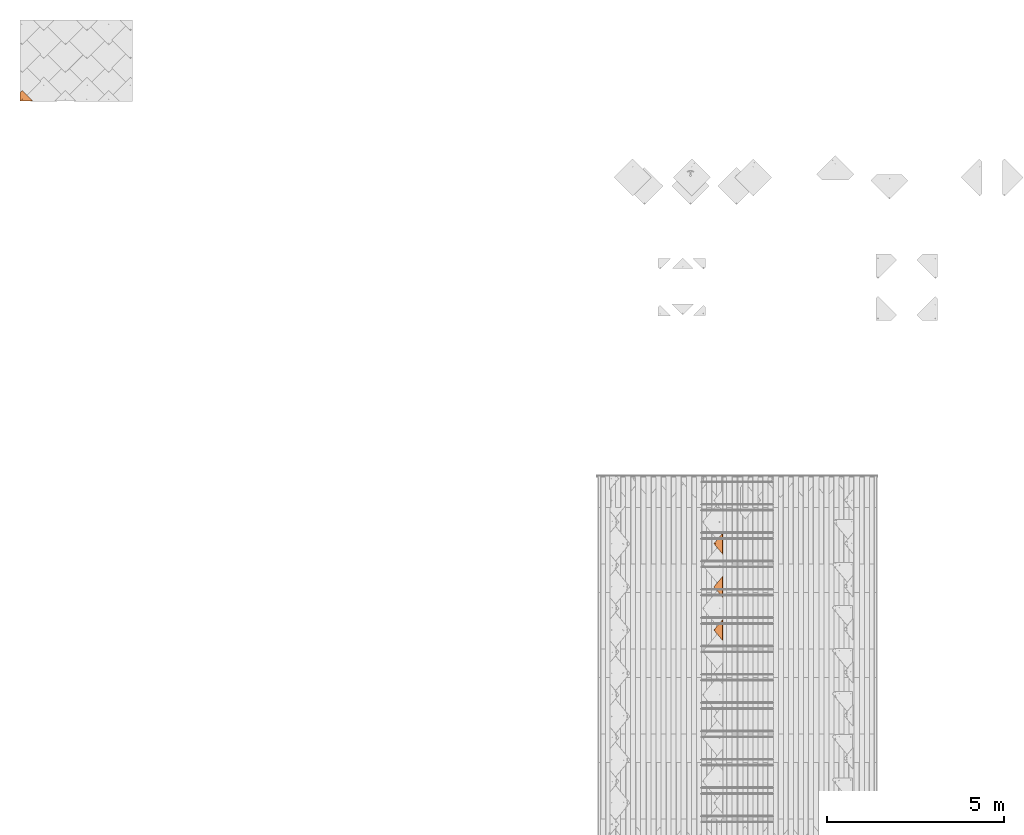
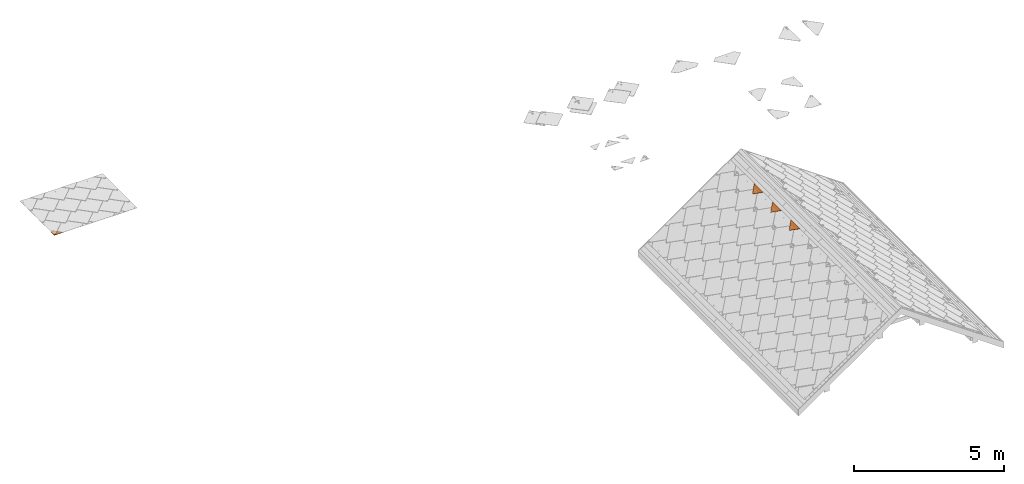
# One storey, part 102 of 133: 4 proxies.
"""IFC2X3 building model written with IfcOpenShell, lengths in millimetres."""

from ifc_helpers import new_model, entity, si_unit, converted_unit, derived_unit, direction, frame, origin, place, context, subcontext, project, spatial, faceted_brep, source, transform, mapped, material, material_list, type_object, type_shapes, element, save


model = new_model("IFC2X3")

# Units and contexts
model_context = context("Model", 3, precision=0.01, world=origin(), true_north=direction((6.12303176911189e-17, 1.0)))
body_context = subcontext(model_context, "Body", "Model", "MODEL_VIEW")
ifc_project = project(units=[si_unit("LENGTHUNIT", "METRE", prefix="MILLI"), si_unit("AREAUNIT", "SQUARE_METRE"), si_unit("VOLUMEUNIT", "CUBIC_METRE"), converted_unit("PLANEANGLEUNIT", "DEGREE", entity("IfcRatioMeasure", 0.0174532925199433), si_unit("PLANEANGLEUNIT", "RADIAN"), dimensions=[0, 0, 0, 0, 0, 0, 0]), si_unit("MASSUNIT", "GRAM", prefix="KILO"), derived_unit("MASSDENSITYUNIT", [(si_unit("MASSUNIT", "GRAM", prefix="KILO"), 1), (si_unit("LENGTHUNIT", "METRE"), -3)]), si_unit("TIMEUNIT", "SECOND"), si_unit("FREQUENCYUNIT", "HERTZ"), si_unit("THERMODYNAMICTEMPERATUREUNIT", "DEGREE_CELSIUS"), derived_unit("THERMALTRANSMITTANCEUNIT", [(si_unit("MASSUNIT", "GRAM", prefix="KILO"), 1), (si_unit("THERMODYNAMICTEMPERATUREUNIT", "KELVIN"), -1), (si_unit("TIMEUNIT", "SECOND"), -3)]), derived_unit("VOLUMETRICFLOWRATEUNIT", [(si_unit("LENGTHUNIT", "METRE"), 3), (si_unit("TIMEUNIT", "SECOND"), -1)]), si_unit("ELECTRICCURRENTUNIT", "AMPERE"), si_unit("ELECTRICVOLTAGEUNIT", "VOLT"), si_unit("POWERUNIT", "WATT"), si_unit("FORCEUNIT", "NEWTON", prefix="KILO"), si_unit("ILLUMINANCEUNIT", "LUX"), si_unit("LUMINOUSFLUXUNIT", "LUMEN"), si_unit("LUMINOUSINTENSITYUNIT", "CANDELA"), derived_unit("USERDEFINED", [(si_unit("MASSUNIT", "GRAM", prefix="KILO"), -1), (si_unit("LENGTHUNIT", "METRE"), -2), (si_unit("TIMEUNIT", "SECOND"), 3), (si_unit("LUMINOUSFLUXUNIT", "LUMEN"), 1)]), derived_unit("LINEARVELOCITYUNIT", [(si_unit("LENGTHUNIT", "METRE"), 1), (si_unit("TIMEUNIT", "SECOND"), -1)]), si_unit("PRESSUREUNIT", "PASCAL"), derived_unit("USERDEFINED", [(si_unit("LENGTHUNIT", "METRE"), -2), (si_unit("MASSUNIT", "GRAM", prefix="KILO"), 1), (si_unit("TIMEUNIT", "SECOND"), -2)])], contexts=[model_context])

# Site, building, storey
site_placement = place(None, origin())
site = spatial("IfcSite", under=ifc_project, at=site_placement, Name="Default", CompositionType="ELEMENT")
building_placement = place(site_placement, origin())
building = spatial("IfcBuilding", under=site, at=building_placement, CompositionType="ELEMENT")
storey_placement = place(building_placement, origin())
storey = spatial("IfcBuildingStorey", under=building, at=storey_placement, Name="Level 1", CompositionType="ELEMENT", Elevation=0.0)

# Proxies
ifc_material_1 = material(Name="Rubber - Sunstyle - Black")
ifc_material_2 = material(Name="Glass - Sunstyle - Tainted Black")
ifc_material_list_1 = material_list([ifc_material_1, ifc_material_2])
ifc_material_list_2 = material_list([ifc_material_1, ifc_material_2])
building_element_proxy_type_1 = type_object("IfcBuildingElementProxyType", Name="Shingle Top Small - Black", PredefinedType="NOTDEFINED", material=ifc_material_list_2)
shared_shape_1 = source(origin(), body_context, "Body", "Brep", [
    faceted_brep([(300.675008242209, 41.77298489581, 1.59527223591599), (294.900805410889, 38.4397147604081, 1.65109621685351), (294.900805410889, 38.8080238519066, 23.6429655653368), (300.675008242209, 42.1412939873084, 23.5871415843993), (294.900805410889, 31.7731744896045, 1.76274417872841), (294.900805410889, 32.1414835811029, 23.7546135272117), (300.675008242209, 28.4399043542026, 1.81856815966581), (300.675008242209, 28.808213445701, 23.8104375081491), (306.44921107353, 31.7731744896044, 1.7627441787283), (306.44921107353, 32.1414835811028, 23.7546135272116), (306.44921107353, 38.4397147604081, 1.65109621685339), (306.44921107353, 38.8080238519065, 23.6429655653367), (292.071304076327, 26.8722558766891, 23.8428599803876), (300.675008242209, 23.3089846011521, 23.9025359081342), (288.507533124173, 35.4747537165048, 23.6987895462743), (292.071304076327, 44.0772515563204, 23.5547191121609), (300.675008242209, 47.6405228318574, 23.4950431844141), (309.278712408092, 44.0772515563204, 23.5547191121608), (312.842483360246, 35.4747537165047, 23.6987895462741), (309.278712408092, 26.872255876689, 23.8428599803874), (289.350763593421, 37.7698308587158, 26.0116314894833), (290.91853368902, 35.5457686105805, 27.9391141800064), (300.67500824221, 42.8588438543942, 28.5718145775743), (300.67500824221, 44.0993414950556, 27.9914679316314), (300.675008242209, 46.2568923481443, 26.98209285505), (300.675008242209, 23.8650286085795, 25.1775938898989), (300.675008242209, 24.8086052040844, 27.3412982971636), (300.675008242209, 28.2579809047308, 28.8163427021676), (300.675008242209, 47.1274867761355, 24.7880055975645), (294.35176254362, 31.9081966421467, 28.7552106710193), (294.35176254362, 39.2086281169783, 28.6329466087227), (311.999252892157, 33.2584106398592, 26.0871865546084), (310.523888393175, 34.4713621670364, 27.8602460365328), (306.998253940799, 39.2086281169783, 28.6329466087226), (306.998253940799, 31.9081966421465, 28.7552106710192), (294.35176254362, 32.0422251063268, 36.7580988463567), (300.67500824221, 28.3920093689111, 36.8192308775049), (300.67500824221, 35.6924408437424, 36.6969668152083), (294.35176254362, 39.342656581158, 36.6358347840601), (306.998253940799, 32.0422251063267, 36.7580988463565), (306.998253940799, 39.342656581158, 36.6358347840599), (300.67500824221, 42.9928723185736, 36.5747027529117), (300.675008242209, 35.1064446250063, 1.7069201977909)], [[[0, 1, 2, 3]], [[1, 4, 5, 2]], [[4, 6, 7, 5]], [[6, 8, 9, 7]], [[8, 10, 11, 9]], [[10, 0, 3, 11]], [[12, 7, 13]], [[7, 12, 5]], [[14, 5, 12]], [[5, 14, 2]], [[15, 2, 14]], [[3, 2, 15]], [[15, 16, 3]], [[16, 17, 3]], [[11, 3, 17]], [[11, 17, 18]], [[9, 11, 18]], [[18, 19, 9]], [[7, 9, 19]], [[19, 13, 7]], [[20, 14, 12]], [[21, 22, 23, 24]], [[24, 20, 21]], [[25, 20, 12]], [[26, 27, 21]], [[15, 14, 20]], [[12, 13, 25]], [[20, 28, 15]], [[28, 20, 24]], [[21, 27, 29]], [[21, 29, 30]], [[26, 21, 20]], [[20, 25, 26]], [[15, 28, 16]], [[21, 30, 22]], [[31, 18, 17]], [[28, 31, 17]], [[32, 27, 26]], [[26, 31, 32]], [[26, 25, 31]], [[25, 19, 31]], [[17, 16, 28]], [[31, 19, 18]], [[24, 31, 28]], [[33, 34, 32]], [[23, 22, 33]], [[24, 32, 31]], [[27, 32, 34]], [[32, 23, 33]], [[19, 25, 13]], [[32, 24, 23]], [[35, 36, 37]], [[37, 38, 35]], [[36, 39, 37]], [[40, 37, 39]], [[37, 40, 41]], [[37, 41, 38]], [[42, 6, 4]], [[4, 1, 42]], [[1, 0, 42]], [[42, 8, 6]], [[0, 10, 42]], [[8, 42, 10]], [[22, 30, 38, 41]], [[30, 29, 35, 38]], [[29, 27, 36, 35]], [[27, 34, 39, 36]], [[34, 33, 40, 39]], [[33, 22, 41, 40]]]),
    faceted_brep([(601.350661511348, 300.716609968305, 19.1616152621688), (307.603211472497, 39.4797476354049, 23.5366826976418), (308.402414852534, 37.5505705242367, 23.5689916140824), (306.331862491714, 41.1363695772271, 23.5089384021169), (308.675008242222, 35.4803084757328, 23.6036633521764), (304.675008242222, 42.4075403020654, 23.4876494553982), (302.745560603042, 43.206631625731, 23.4742666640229), (300.675008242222, 43.4791867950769, 23.4697020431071), (308.402414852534, 33.4100464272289, 23.6383350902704), (300.675330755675, 0.125588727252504, 24.1957669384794), (0.0, 300.716609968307, 19.1616152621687), (298.604455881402, 43.2066316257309, 23.4742666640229), (296.675008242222, 42.4075403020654, 23.4876494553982), (295.018153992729, 41.136369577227, 23.5089384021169), (293.746805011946, 39.4797476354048, 23.5366826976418), (292.947601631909, 37.5505705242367, 23.5689916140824), (292.675008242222, 35.4803084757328, 23.6036633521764), (292.947601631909, 33.4100464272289, 23.6383350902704), (293.746805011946, 31.4808693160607, 23.6706440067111), (307.603211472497, 31.4808693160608, 23.6706440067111), (306.331862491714, 29.8242473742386, 23.698388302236), (304.675008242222, 28.5530766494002, 23.7196772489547), (302.745560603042, 27.7539853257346, 23.73306004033), (300.675008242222, 27.4814301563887, 23.7376246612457), (298.604455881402, 27.7539853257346, 23.73306004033), (296.675008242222, 28.5530766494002, 23.7196772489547), (295.018153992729, 29.8242473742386, 23.698388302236), (0.0, 300.591021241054, 11.6626668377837), (295.018153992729, 41.0107808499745, 16.0099899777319), (293.746805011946, 39.3541589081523, 16.0377342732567), (296.675008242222, 42.2819515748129, 15.9887010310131), (292.947601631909, 37.4249817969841, 16.0700431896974), (298.604455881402, 43.0810428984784, 15.9753182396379), (300.675008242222, 43.3535980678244, 15.9707536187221), (601.350661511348, 300.591021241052, 11.6626668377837), (292.675008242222, 35.3547197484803, 16.1047149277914), (292.947601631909, 33.2844576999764, 16.1393866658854), (300.675330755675, 0.0, 16.6968185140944), (302.745560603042, 43.0810428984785, 15.9753182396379), (304.675008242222, 42.2819515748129, 15.9887010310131), (306.331862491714, 41.0107808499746, 16.0099899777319), (307.603211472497, 39.3541589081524, 16.0377342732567), (308.402414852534, 37.4249817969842, 16.0700431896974), (308.675008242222, 35.3547197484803, 16.1047149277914), (308.402414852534, 33.2844576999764, 16.1393866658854), (307.603211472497, 31.3552805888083, 16.171695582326), (293.746805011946, 31.3552805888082, 16.171695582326), (295.018153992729, 29.6986586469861, 16.1994398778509), (296.675008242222, 28.4274879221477, 16.2207288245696), (298.604455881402, 27.6283965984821, 16.2341116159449), (300.675008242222, 27.3558414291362, 16.2386762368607), (302.745560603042, 27.6283965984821, 16.2341116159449), (304.675008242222, 28.4274879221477, 16.2207288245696), (306.331862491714, 29.6986586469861, 16.1994398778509)], [[[0, 1, 2]], [[1, 0, 3]], [[0, 2, 4]], [[5, 3, 0]], [[6, 5, 0]], [[0, 7, 6]], [[4, 8, 0]], [[8, 9, 0]], [[7, 0, 10]], [[11, 7, 10]], [[12, 11, 10]], [[10, 13, 12]], [[13, 10, 14]], [[15, 14, 10]], [[10, 16, 15]], [[17, 16, 10]], [[10, 9, 17]], [[17, 9, 18]], [[8, 19, 9]], [[20, 9, 19]], [[20, 21, 9]], [[22, 9, 21]], [[23, 9, 22]], [[23, 24, 9]], [[24, 25, 9]], [[25, 26, 9]], [[9, 26, 18]], [[27, 28, 29]], [[28, 27, 30]], [[27, 29, 31]], [[32, 30, 27]], [[33, 32, 27]], [[27, 34, 33]], [[31, 35, 27]], [[35, 36, 27]], [[27, 36, 37]], [[38, 33, 34]], [[39, 38, 34]], [[40, 39, 34]], [[34, 41, 40]], [[41, 34, 42]], [[43, 42, 34]], [[34, 44, 43]], [[37, 44, 34]], [[45, 44, 37]], [[37, 36, 46]], [[37, 46, 47]], [[47, 48, 37]], [[48, 49, 37]], [[50, 37, 49]], [[50, 51, 37]], [[37, 51, 52]], [[52, 53, 37]], [[45, 37, 53]], [[9, 10, 27, 37]], [[0, 9, 37, 34]], [[16, 35, 31, 15]], [[15, 31, 29, 14]], [[12, 13, 28, 30]], [[28, 13, 14, 29]], [[11, 12, 30, 32]], [[11, 32, 33, 7]], [[7, 33, 38, 6]], [[6, 38, 39, 5]], [[1, 3, 40, 41]], [[40, 3, 5, 39]], [[2, 1, 41, 42]], [[2, 42, 43, 4]], [[4, 43, 44, 8]], [[8, 44, 45, 19]], [[21, 20, 53, 52]], [[53, 20, 19, 45]], [[22, 21, 52, 51]], [[22, 51, 50, 23]], [[23, 50, 49, 24]], [[24, 49, 48, 25]], [[18, 26, 47, 46]], [[47, 26, 25, 48]], [[17, 18, 46, 36]], [[17, 36, 35, 16]], [[10, 0, 34, 27]]]),
])
type_shapes(building_element_proxy_type_1, [shared_shape_1])
proxy_1_placement = place(storey_placement, frame((558.087990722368, 2334.12586888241, 2379.24450072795), z_axis=(-0.57357643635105, 0.0, 0.819152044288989), x_axis=(0.0, -1.0, 0.0)))
element("IfcBuildingElementProxy", 1, at=proxy_1_placement, inside=storey, type_object=building_element_proxy_type_1, material=ifc_material_list_1, Name="Roofing_Panels_SunStyle_Tile_Shingle-Top-Small:Shingle Top Small - Black", ObjectType="Roofing_Panels_SunStyle_Tile_Shingle-Top-Small:Shingle Top Small - Black", context=body_context, shape_type="MappedRepresentation", body=[
    mapped(shared_shape_1, transform((0.0, 0.0, 0.0), scale=1.0)),
])
ifc_material_list_3 = material_list([ifc_material_1, ifc_material_2])
proxy_2_placement = place(storey_placement, frame((558.087990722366, 1114.12586888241, 2379.24450072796), z_axis=(-0.57357643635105, 0.0, 0.819152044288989), x_axis=(0.0, -1.0, 0.0)))
element("IfcBuildingElementProxy", 2, at=proxy_2_placement, inside=storey, type_object=building_element_proxy_type_1, material=ifc_material_list_3, Name="Roofing_Panels_SunStyle_Tile_Shingle-Top-Small:Shingle Top Small - Black", ObjectType="Roofing_Panels_SunStyle_Tile_Shingle-Top-Small:Shingle Top Small - Black", context=body_context, shape_type="MappedRepresentation", body=[
    mapped(shared_shape_1, transform((0.0, 0.0, 0.0), scale=1.0)),
])
ifc_material_list_4 = material_list([ifc_material_1, ifc_material_2])
proxy_3_placement = place(storey_placement, frame((558.087990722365, -105.87413111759, 2379.24450072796), z_axis=(-0.57357643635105, 0.0, 0.819152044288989), x_axis=(0.0, -1.0, 0.0)))
element("IfcBuildingElementProxy", 3, at=proxy_3_placement, inside=storey, type_object=building_element_proxy_type_1, material=ifc_material_list_4, Name="Roofing_Panels_SunStyle_Tile_Shingle-Top-Small:Shingle Top Small - Black", ObjectType="Roofing_Panels_SunStyle_Tile_Shingle-Top-Small:Shingle Top Small - Black", context=body_context, shape_type="MappedRepresentation", body=[
    mapped(shared_shape_1, transform((0.0, 0.0, 0.0), scale=1.0)),
])
ifc_material_list_5 = material_list([ifc_material_1, ifc_material_2])
ifc_material_list_6 = material_list([ifc_material_1, ifc_material_2])
building_element_proxy_type_2 = type_object("IfcBuildingElementProxyType", Name="Corner Bottom Small Left - Black", PredefinedType="NOTDEFINED", material=ifc_material_list_6)
shared_shape_2 = source(origin(), body_context, "Body", "Brep", [
    faceted_brep([(330.847757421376, 18.4932261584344, 12.2894055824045), (339.332443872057, 26.9779126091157, 12.1473081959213), (339.332443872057, 27.0030303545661, 13.6470978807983), (330.847757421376, 18.5183439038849, 13.7891952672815), (61.6993486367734, 287.566165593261, 7.7831033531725), (10.0799586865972, 235.961249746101, 8.64735729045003), (1.59527223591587, 244.445936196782, 8.50525990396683), (61.6993486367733, 304.533159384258, 7.49894842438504), (61.6993486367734, 304.558277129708, 8.9987381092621), (1.59527223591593, 244.471053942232, 10.0050495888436), (10.0799586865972, 235.986367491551, 10.147146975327), (61.6993486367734, 287.591283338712, 9.2828930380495)], [[[0, 1, 2, 3]], [[1, 0, 4, 5, 6, 7]], [[2, 1, 7, 8]], [[3, 2, 8, 9, 10, 11]], [[0, 3, 11, 4]], [[5, 10, 9, 6]], [[8, 7, 6, 9]], [[4, 11, 10, 5]]]),
    faceted_brep([(61.6990261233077, 46.946835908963, 21.8142807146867), (61.6990261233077, 51.4462045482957, 21.7389274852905), (53.0953219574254, 50.5101071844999, 21.7546047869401), (70.3027302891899, 50.5101071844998, 21.7546047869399), (68.3392547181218, 55.2794047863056, 21.6747309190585), (73.8665012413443, 59.1126050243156, 21.6105343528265), (68.3392547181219, 62.9458052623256, 21.5463377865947), (70.30273028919, 67.7151028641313, 21.4664639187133), (61.6990261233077, 66.7790055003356, 21.4821412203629), (61.6990261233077, 71.2783741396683, 21.4067879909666), (53.0953219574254, 67.7151028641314, 21.4664639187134), (55.0587975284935, 62.9458052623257, 21.5463377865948), (49.5315510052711, 59.1126050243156, 21.6105343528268), (55.0587975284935, 55.2794047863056, 21.6747309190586), (55.0587978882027, 62.6778824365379, 5.54858115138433), (61.6990261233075, 66.5110824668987, 5.48438458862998), (55.0587978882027, 55.0114823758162, 5.6769742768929), (61.6990261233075, 51.1782823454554, 5.74117083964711), (68.3392543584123, 55.0114823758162, 5.67697427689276), (68.3392543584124, 62.6778824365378, 5.5485811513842), (53.0953219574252, 50.2421845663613, 5.75684814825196), (61.6990261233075, 46.6789132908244, 5.81652407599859), (49.5315510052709, 58.844682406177, 5.61277771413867), (53.0953219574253, 67.4471802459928, 5.4687072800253), (61.6990261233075, 71.0104515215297, 5.4090313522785), (70.3027302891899, 67.4471802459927, 5.46870728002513), (73.8665012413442, 58.844682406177, 5.61277771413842), (70.3027302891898, 50.2421845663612, 5.75684814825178)], [[[0, 1, 2]], [[1, 0, 3]], [[3, 4, 1]], [[4, 3, 5]], [[6, 4, 5]], [[5, 7, 6]], [[7, 8, 6]], [[8, 7, 9]], [[8, 9, 10]], [[10, 11, 8]], [[12, 11, 10]], [[2, 13, 12]], [[12, 13, 11]], [[13, 2, 1]], [[8, 11, 14, 15]], [[11, 13, 16, 14]], [[13, 1, 17, 16]], [[1, 4, 18, 17]], [[4, 6, 19, 18]], [[6, 8, 15, 19]], [[20, 17, 21]], [[17, 20, 16]], [[22, 16, 20]], [[14, 16, 22]], [[23, 14, 22]], [[15, 14, 23]], [[23, 24, 15]], [[24, 25, 15]], [[19, 15, 25]], [[19, 25, 26]], [[26, 18, 19]], [[26, 27, 18]], [[17, 18, 27]], [[27, 21, 17]], [[24, 23, 10, 9]], [[10, 23, 22, 12]], [[20, 21, 0, 2]], [[20, 2, 12, 22]], [[21, 27, 3, 0]], [[3, 27, 26, 5]], [[25, 24, 9, 7]], [[25, 7, 5, 26]]]),
    faceted_brep([(1.59527223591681, 244.445936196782, 8.50525990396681), (58.5931975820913, 70.7020897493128, 11.4150370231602), (61.6990261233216, 71.1109225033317, 11.4081900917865), (55.6990261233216, 69.5034527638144, 11.4351112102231), (64.8048546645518, 70.7020897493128, 11.4150370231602), (53.213744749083, 67.596696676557, 11.4670446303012), (51.3067212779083, 65.1117637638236, 11.5086610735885), (1.5952722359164, 0.125588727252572, 12.5970178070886), (67.6990261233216, 69.5034527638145, 11.4351112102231), (61.6993486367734, 304.533159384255, 7.49894842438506), (50.1079162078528, 62.2179980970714, 11.5571244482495), (49.6990261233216, 59.1126050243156, 11.6091320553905), (50.1079162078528, 56.0072119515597, 11.6611396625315), (51.3067212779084, 53.1134462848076, 11.7096030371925), (53.2137447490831, 50.6285133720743, 11.7512194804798), (55.6990261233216, 48.7217572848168, 11.7831529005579), (58.5931975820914, 47.5231202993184, 11.8032270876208), (61.6990261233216, 47.1142875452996, 11.8100740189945), (64.8048546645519, 47.5231202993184, 11.8032270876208), (67.6990261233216, 48.7217572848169, 11.7831529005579), (366.192299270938, 0.125588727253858, 12.5970178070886), (72.0913309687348, 65.1117637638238, 11.5086610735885), (73.2901360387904, 62.2179980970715, 11.5571244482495), (73.6990261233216, 59.1126050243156, 11.6091320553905), (70.1843074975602, 50.6285133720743, 11.7512194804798), (72.0913309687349, 53.1134462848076, 11.7096030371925), (73.2901360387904, 56.0072119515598, 11.6611396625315), (70.1843074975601, 67.596696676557, 11.4670446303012), (1.5952722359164, 0.0, 5.09806938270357), (55.6990261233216, 48.5961685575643, 4.2842044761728), (58.5931975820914, 47.3975315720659, 4.30427866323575), (53.2137447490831, 50.5029246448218, 4.25227105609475), (61.6990261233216, 46.9886988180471, 4.3111255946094), (51.3067212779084, 52.9878575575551, 4.21065461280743), (50.1079162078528, 55.8816232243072, 4.16219123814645), (49.6990261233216, 58.9870162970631, 4.11018363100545), (50.1079162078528, 62.0924093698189, 4.05817602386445), (64.8048546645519, 47.3975315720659, 4.30427866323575), (67.6990261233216, 48.5961685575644, 4.2842044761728), (366.192299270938, 0.0, 5.09806938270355), (51.3067212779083, 64.9861750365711, 4.00971264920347), (1.59527223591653, 244.320347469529, 1.00631147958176), (53.213744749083, 67.4711079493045, 3.96809620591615), (55.6990261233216, 69.3778640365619, 3.93616278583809), (58.5931975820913, 70.5765010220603, 3.91608859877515), (61.6990261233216, 70.9853337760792, 3.90924166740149), (64.8048546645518, 70.5765010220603, 3.91608859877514), (67.6990261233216, 69.377864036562, 3.93616278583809), (61.6993486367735, 304.407570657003, 0.0), (72.0913309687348, 64.9861750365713, 4.00971264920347), (70.1843074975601, 67.4711079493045, 3.96809620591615), (70.1843074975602, 50.5029246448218, 4.25227105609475), (72.0913309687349, 52.9878575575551, 4.21065461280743), (73.2901360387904, 55.8816232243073, 4.16219123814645), (73.6990261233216, 58.9870162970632, 4.11018363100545), (73.2901360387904, 62.092409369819, 4.05817602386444)], [[[0, 1, 2]], [[1, 0, 3]], [[0, 2, 4]], [[5, 3, 0]], [[6, 5, 0]], [[6, 0, 7]], [[8, 0, 4]], [[0, 8, 9]], [[7, 10, 6]], [[11, 10, 7]], [[12, 11, 7]], [[13, 12, 7]], [[7, 14, 13]], [[14, 7, 15]], [[16, 15, 7]], [[7, 17, 16]], [[17, 7, 18]], [[19, 18, 7]], [[20, 19, 7]], [[9, 21, 20]], [[20, 21, 22]], [[20, 22, 23]], [[19, 20, 24]], [[25, 24, 20]], [[26, 25, 20]], [[26, 20, 23]], [[9, 8, 27]], [[27, 21, 9]], [[28, 29, 30]], [[29, 28, 31]], [[28, 30, 32]], [[33, 31, 28]], [[34, 33, 28]], [[35, 34, 28]], [[28, 36, 35]], [[37, 28, 32]], [[37, 38, 28]], [[28, 38, 39]], [[36, 28, 40]], [[28, 41, 40]], [[42, 40, 41]], [[41, 43, 42]], [[43, 41, 44]], [[45, 44, 41]], [[41, 46, 45]], [[41, 47, 46]], [[47, 41, 48]], [[49, 48, 39]], [[50, 47, 48]], [[48, 49, 50]], [[38, 51, 39]], [[51, 52, 39]], [[52, 53, 39]], [[39, 53, 54]], [[55, 39, 54]], [[49, 39, 55]], [[11, 35, 36, 10]], [[10, 36, 40, 6]], [[3, 5, 42, 43]], [[40, 42, 5, 6]], [[1, 3, 43, 44]], [[45, 2, 1, 44]], [[4, 46, 47, 8]], [[8, 47, 50, 27]], [[22, 21, 49, 55]], [[50, 49, 21, 27]], [[23, 22, 55, 54]], [[4, 2, 45, 46]], [[23, 54, 53, 26]], [[26, 53, 52, 25]], [[19, 24, 51, 38]], [[52, 51, 24, 25]], [[18, 19, 38, 37]], [[32, 17, 18, 37]], [[16, 30, 29, 15]], [[15, 29, 31, 14]], [[12, 13, 33, 34]], [[31, 33, 13, 14]], [[11, 12, 34, 35]], [[16, 17, 32, 30]], [[0, 9, 48, 41]], [[7, 0, 41, 28]], [[20, 7, 28, 39]], [[9, 20, 39, 48]]]),
    faceted_brep([(1.59527223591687, 209.239382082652, 19.0962843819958), (1.59527223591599, 182.513149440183, 19.5438822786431), (24.4390403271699, 190.969673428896, 19.4022565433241), (34.6448586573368, 218.551914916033, 18.9403226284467), (48.3990261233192, 195.36105911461, 19.3287117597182), (68.9162632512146, 220.671424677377, 18.9048261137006), (74.999026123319, 195.361059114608, 19.3287117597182), (74.99902612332, 85.4841763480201, 21.1688761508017), (48.3990261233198, 85.4841763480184, 21.1688761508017), (61.6990261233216, 71.2783741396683, 21.4067879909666), (58.5931975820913, 70.8695413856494, 21.4136349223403), (55.6990261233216, 69.670904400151, 21.4337091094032), (42.9949199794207, 81.9461281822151, 21.2281296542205), (53.213744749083, 67.7641483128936, 21.4656425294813), (38.4943757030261, 77.3131226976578, 21.3057209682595), (51.3067212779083, 65.2792154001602, 21.5072589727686), (35.1148065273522, 71.8089720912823, 21.397901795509), (50.1079162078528, 62.385449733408, 21.5557223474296), (33.0194733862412, 65.6995720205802, 21.5002190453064), (49.6990261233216, 59.2800566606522, 21.6077299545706), (32.3095980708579, 59.2800566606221, 21.6077299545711), (50.1079162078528, 56.1746635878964, 21.6597375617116), (51.3067212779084, 53.2808979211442, 21.7082009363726), (53.2137447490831, 50.7959650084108, 21.7498173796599), (61.6990261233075, 29.8947493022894, 22.0998607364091), (55.6990261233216, 48.8892089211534, 21.7817507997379), (58.5931975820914, 47.690571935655, 21.8018249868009), (61.6990261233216, 47.2817391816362, 21.8086719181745), (64.8048546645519, 47.690571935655, 21.8018249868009), (67.6990261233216, 48.8892089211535, 21.7817507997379), (70.1843074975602, 50.7959650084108, 21.7498173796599), (91.0884541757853, 59.2800566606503, 21.6077299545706), (72.0913309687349, 53.2808979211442, 21.7082009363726), (73.2901360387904, 56.1746635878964, 21.6597375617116), (73.6990261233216, 59.2800566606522, 21.6077299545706), (90.3785788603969, 65.699572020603, 21.500219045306), (73.2901360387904, 62.3854497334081, 21.5557223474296), (88.2832457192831, 71.8089720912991, 21.3979017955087), (72.0913309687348, 65.2792154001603, 21.5072589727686), (84.9036765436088, 77.3131226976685, 21.3057209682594), (70.1843074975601, 67.7641483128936, 21.4656425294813), (80.4031322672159, 81.9461281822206, 21.2281296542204), (67.6990261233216, 69.6709044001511, 21.4337091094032), (64.8048546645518, 70.8695413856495, 21.4136349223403), (102.861723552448, 215.50219023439, 18.9913979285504), (100.468768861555, 190.546178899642, 19.4093490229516), (134.948197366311, 203.277664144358, 19.1961283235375), (124.623359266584, 181.142545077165, 19.5668364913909), (146.643422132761, 167.469148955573, 19.7958318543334), (163.72659789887, 184.549929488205, 19.5097712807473), (51.3067212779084, 53.1134462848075, 11.7096030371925), (32.3095980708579, 59.1126050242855, 11.609132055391), (50.1079162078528, 56.0072119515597, 11.6611396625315), (53.2137447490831, 50.6285133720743, 11.7512194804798), (61.6990261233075, 29.7272976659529, 12.1012628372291), (55.6990261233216, 48.7217572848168, 11.7831529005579), (58.5931975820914, 47.5231202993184, 11.8032270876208), (61.6990261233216, 47.1142875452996, 11.8100740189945), (64.8048546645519, 47.5231202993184, 11.8032270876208), (67.6990261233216, 48.7217572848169, 11.7831529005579), (70.1843074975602, 50.6285133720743, 11.7512194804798), (91.0884541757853, 59.1126050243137, 11.6091320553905), (72.0913309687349, 53.1134462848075, 11.7096030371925), (73.2901360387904, 56.0072119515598, 11.6611396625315), (73.6990261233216, 59.1126050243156, 11.6091320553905), (90.3785788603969, 65.5321203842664, 11.5016211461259), (73.2901360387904, 62.2179980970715, 11.5571244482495), (88.2832457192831, 71.6415204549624, 11.3993038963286), (72.0913309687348, 65.1117637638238, 11.5086610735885), (84.9036765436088, 77.1456710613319, 11.3071230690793), (70.1843074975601, 67.596696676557, 11.4670446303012), (80.4031322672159, 81.778676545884, 11.2295317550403), (67.6990261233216, 69.5034527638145, 11.4351112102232), (74.99902612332, 85.3167247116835, 11.1702782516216), (64.8048546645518, 70.7020897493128, 11.4150370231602), (61.6990261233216, 71.1109225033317, 11.4081900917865), (48.39902612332, 85.3167247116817, 11.1702782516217), (58.5931975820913, 70.7020897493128, 11.4150370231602), (55.6990261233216, 69.5034527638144, 11.4351112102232), (42.9949199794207, 81.7786765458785, 11.2295317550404), (53.213744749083, 67.596696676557, 11.4670446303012), (38.4943757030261, 77.1456710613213, 11.3071230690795), (51.3067212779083, 65.1117637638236, 11.5086610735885), (35.1148065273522, 71.6415204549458, 11.3993038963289), (50.1079162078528, 62.2179980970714, 11.5571244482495), (33.0194733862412, 65.5321203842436, 11.5016211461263), (49.6990261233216, 59.1126050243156, 11.6091320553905), (48.3990261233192, 195.193607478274, 9.33011386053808), (74.99902612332, 195.193607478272, 9.33011386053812), (68.9162632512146, 220.50397304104, 8.90622821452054), (34.6448586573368, 218.384463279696, 8.94172472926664), (24.4390403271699, 190.802221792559, 9.40365864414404), (1.59527223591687, 209.071930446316, 9.09768648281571), (1.59527223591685, 182.345697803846, 9.545284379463), (102.861723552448, 215.334738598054, 8.99280002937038), (100.468768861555, 190.378727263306, 9.4107511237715), (134.948197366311, 203.110212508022, 9.19753042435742), (124.623359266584, 180.975093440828, 9.5682385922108), (146.643422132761, 167.301697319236, 9.79723395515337), (163.72659789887, 184.382477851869, 9.51117338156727), (169.978999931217, 179.020830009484, 9.60096764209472), (175.949995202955, 173.347554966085, 9.69598088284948), (172.968069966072, 140.980740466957, 10.2380444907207), (190.645739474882, 158.655931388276, 9.94202902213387), (190.645739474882, 158.69779429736, 12.4416784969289), (172.968069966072, 141.022603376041, 12.7376939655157), (163.72659789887, 184.424340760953, 12.0108228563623), (146.643422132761, 167.34356022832, 12.2968834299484), (175.949995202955, 173.38941787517, 12.1956303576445), (169.978999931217, 179.062692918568, 12.1006171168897)], [[[0, 1, 2]], [[0, 2, 3]], [[2, 4, 3]], [[3, 4, 5]], [[5, 4, 6]], [[7, 6, 4]], [[7, 4, 8]], [[9, 7, 8]], [[9, 8, 10]], [[10, 8, 11]], [[12, 11, 8]], [[11, 12, 13]], [[14, 13, 12]], [[13, 14, 15]], [[15, 14, 16]], [[17, 15, 16]], [[18, 17, 16]], [[18, 19, 17]], [[19, 18, 20]], [[20, 21, 19]], [[20, 22, 21]], [[22, 20, 23]], [[23, 20, 24]], [[24, 25, 23]], [[26, 25, 24]], [[24, 27, 26]], [[28, 27, 24]], [[28, 24, 29]], [[30, 29, 24]], [[30, 24, 31]], [[31, 32, 30]], [[33, 32, 31]], [[31, 34, 33]], [[35, 34, 31]], [[34, 35, 36]], [[36, 35, 37]], [[36, 37, 38]], [[38, 37, 39]], [[39, 40, 38]], [[39, 41, 40]], [[7, 42, 41]], [[40, 41, 42]], [[42, 7, 43]], [[43, 7, 9]], [[44, 5, 6]], [[44, 6, 45]], [[45, 46, 44]], [[46, 45, 47]], [[47, 48, 46]], [[49, 46, 48]], [[50, 51, 52]], [[51, 50, 53]], [[51, 53, 54]], [[54, 53, 55]], [[55, 56, 54]], [[57, 54, 56]], [[54, 57, 58]], [[54, 58, 59]], [[59, 60, 54]], [[54, 60, 61]], [[61, 60, 62]], [[62, 63, 61]], [[64, 61, 63]], [[61, 64, 65]], [[66, 65, 64]], [[67, 65, 66]], [[67, 66, 68]], [[67, 68, 69]], [[69, 68, 70]], [[71, 69, 70]], [[70, 72, 71]], [[73, 71, 72]], [[74, 73, 72]], [[73, 74, 75]], [[76, 73, 75]], [[75, 77, 76]], [[76, 77, 78]], [[79, 76, 78]], [[78, 80, 79]], [[81, 79, 80]], [[81, 80, 82]], [[82, 83, 81]], [[82, 84, 83]], [[84, 85, 83]], [[86, 85, 84]], [[52, 51, 86]], [[85, 86, 51]], [[87, 73, 76]], [[88, 73, 87]], [[88, 87, 89]], [[90, 89, 87]], [[87, 91, 90]], [[91, 92, 90]], [[93, 92, 91]], [[88, 89, 94]], [[88, 94, 95]], [[96, 95, 94]], [[96, 97, 95]], [[97, 96, 98]], [[96, 99, 98]], [[98, 99, 100]], [[98, 100, 101]], [[101, 102, 98]], [[102, 101, 103]], [[8, 4, 87, 76]], [[12, 8, 76, 79]], [[14, 12, 79, 81]], [[81, 83, 16, 14]], [[18, 16, 83, 85]], [[20, 18, 85, 51]], [[24, 20, 51, 54]], [[31, 24, 54, 61]], [[104, 105, 102, 103]], [[35, 31, 61, 65]], [[37, 35, 65, 67]], [[67, 69, 39, 37]], [[41, 39, 69, 71]], [[7, 41, 71, 73]], [[6, 7, 73, 88]], [[106, 99, 96, 46, 49]], [[46, 96, 94, 44]], [[5, 44, 94, 89]], [[3, 5, 89, 90]], [[92, 0, 3, 90]], [[19, 86, 84, 17]], [[17, 84, 82, 15]], [[11, 13, 80, 78]], [[82, 80, 13, 15]], [[10, 11, 78, 77]], [[75, 9, 10, 77]], [[43, 74, 72, 42]], [[42, 72, 70, 40]], [[36, 38, 68, 66]], [[70, 68, 38, 40]], [[34, 36, 66, 64]], [[43, 9, 75, 74]], [[34, 64, 63, 33]], [[33, 63, 62, 32]], [[29, 30, 60, 59]], [[62, 60, 30, 32]], [[28, 29, 59, 58]], [[57, 27, 28, 58]], [[26, 56, 55, 25]], [[25, 55, 53, 23]], [[21, 22, 50, 52]], [[53, 50, 22, 23]], [[19, 21, 52, 86]], [[26, 27, 57, 56]], [[49, 48, 107, 106]], [[93, 91, 2, 1]], [[87, 4, 2, 91]], [[88, 95, 45, 6]], [[95, 97, 47, 45]], [[107, 48, 47, 97, 98]], [[1, 0, 92, 93]], [[104, 108, 109, 106, 107, 105]], [[108, 104, 103, 101]], [[108, 101, 100, 109]], [[100, 99, 106, 109]], [[105, 107, 98, 102]]]),
])
type_shapes(building_element_proxy_type_2, [shared_shape_2])
proxy_4_placement = place(storey_placement, frame((-19048.7183786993, 14526.940789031, -1.49476068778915)))
element("IfcBuildingElementProxy", 4, at=proxy_4_placement, inside=storey, type_object=building_element_proxy_type_2, material=ifc_material_list_5, Name="Roofing_Panels_SunStyle_Tile_Corner-Bottom-Small-Left:Corner Bottom Small Left - Black", ObjectType="Roofing_Panels_SunStyle_Tile_Corner-Bottom-Small-Left:Corner Bottom Small Left - Black", context=body_context, shape_type="MappedRepresentation", body=[
    mapped(shared_shape_2, transform((0.0, 0.0, 0.0), scale=1.0)),
])

save(model, "model.ifc")
